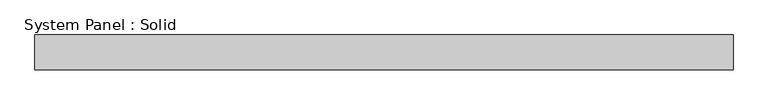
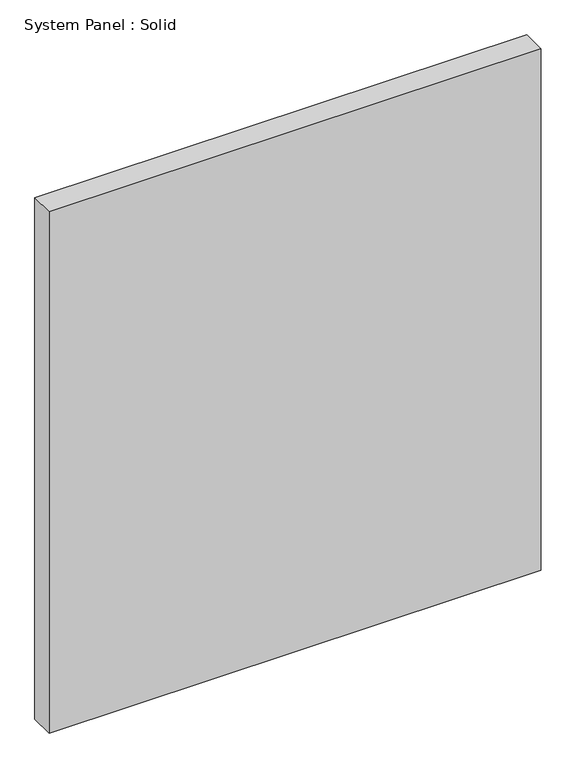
"""IFC4 building model written with IfcOpenShell, lengths in millimetres: plate geometry, System Panel : Solid."""

from ifc_helpers import new_model, si_unit, origin, origin_with_axes, place, context, project, spatial, polyline, outline, extrude, source, transform, mapped, element, save


def system_panel_solid_ac5feb95(model_context):
    return source(origin(), model_context, "Body", "SweptSolid", [
        extrude(outline(polyline([(638.1750001, -44.45), (-638.1750001, -44.45), (-638.1750001, 19.05), (638.1750001, 19.05), (638.1750001, -44.45)])), origin_with_axes(), (0.0, 0.0, 1.0), 1428.75),
    ])


if __name__ == "__main__":
    model = new_model("IFC4")
    model_context = context("Model", 3, world=origin())
    ifc_project = project(units=[si_unit("LENGTHUNIT", "METRE", prefix="MILLI")], contexts=[model_context])
    site = spatial("IfcSite", under=ifc_project)
    building = spatial("IfcBuilding", under=site)
    placement = place(None, origin())
    system_panel_solid_shape = system_panel_solid_ac5feb95(model_context)
    element("IfcPlate", 1, ObjectType="System Panel : Solid", at=placement, inside=building, context=model_context, shape_type="MappedRepresentation", body=[
        mapped(system_panel_solid_shape, transform((0.0, 0.0, 0.0), x_axis=(1.0, 0.0, 0.0), y_axis=(0.0, 1.0, 0.0), z_axis=(0.0, 0.0, 1.0))),
    ])
    save(model, "model.ifc")
